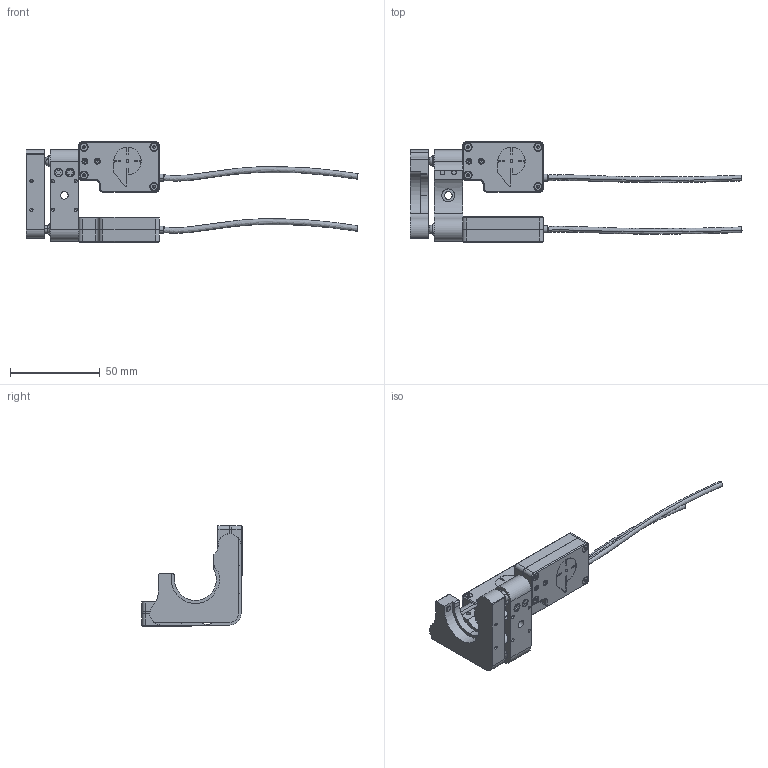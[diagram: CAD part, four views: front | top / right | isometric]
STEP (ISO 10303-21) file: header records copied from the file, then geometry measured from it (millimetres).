
FILE_DESCRIPTION (( 'STEP AP214' ), '1' );
FILE_NAME ('LinAct.STEP', '2021-04-29T09:42:25', ( '' ), ( '' ), 'SwSTEP 2.0', 'SolidWorks 2016', '' );
FILE_SCHEMA (( 'AUTOMOTIVE_DESIGN' ));
Length unit declared in the file: millimetre
Products named in the file (12): Top; Piston; Frontadaptor_2; GSM_0608_08_1; Bottom; SNZS_M2_3; Balltip; Cable; CSHCS-ST-M2-10_CSHCS-ST-M2-10; U100-A-LH; SNZS_M1_6_6; LinAct
Assembly tree (39 placements, depth 2):
  LinAct
    GSM_0608_08_1  x2
    Piston  x2
    Bottom  x2
    Top  x2
    Balltip  x2
    Cable  x2
    SNZS_M1_6_6  x8
    Frontadaptor_2  x2
    CSHCS-ST-M2-10_CSHCS-ST-M2-10  x8
    SNZS_M2_3  x8
    U100-A-LH
Bounding box: 184.87 x 55.9 x 55.9 mm (x, y, z)
Volume: 42616.8 mm3; surface area: 39032.9 mm2
Topology: 39 solids, 39 shells, 1780 faces, 4147 edges, 2489 vertices
Faces by surface type: plane 927, cylinder 523, cone 250, torus 70, sphere 6, bspline 4
Entity records: 25131 total; most frequent: CARTESIAN_POINT 5422, DIRECTION 3973, ORIENTED_EDGE 3676, EDGE_CURVE 1838, AXIS2_PLACEMENT_3D 1480, VERTEX_POINT 1169, VECTOR 1013, LINE 1013
